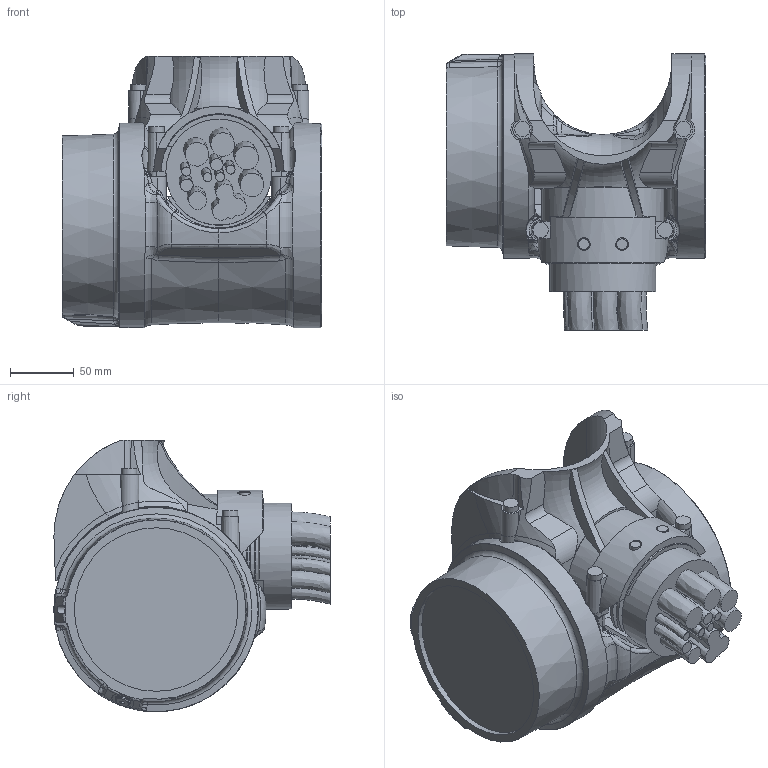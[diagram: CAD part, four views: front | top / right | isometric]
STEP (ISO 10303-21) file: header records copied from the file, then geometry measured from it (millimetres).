
FILE_DESCRIPTION (( 'STEP AP203' ), '1' );
FILE_NAME ('IRB6730S-LID_130kg-400_OC_01_LINK06_CABLE.step', '2025-12-19T13:19:45', ( '' ), ( '' ), 'SwSTEP 2.0', 'SolidWorks 2024', '' );
FILE_SCHEMA (( 'CONFIG_CONTROL_DESIGN' ));
Length unit declared in the file: millimetre
Products named in the file (1): IRB6730S-LID_130kg-400_OC_01_LINK06_CABLE
Bounding box: 203.3 x 216.17 x 212.48 mm (x, y, z)
Volume: 2778877.9 mm3; surface area: 286287.8 mm2
Topology: 1 solids, 1 shells, 617 faces, 1551 edges, 948 vertices
Faces by surface type: bspline 219, plane 150, cylinder 107, cone 66, torus 61, sphere 14
Full cylindrical faces by diameter (mm): 8.5 x15, 10 x3, 11.9 x1, 12 x5, 83 x1, 128 x1, 160 x2
Entity records: 29980 total; most frequent: CARTESIAN_POINT 17479, ORIENTED_EDGE 2936, DIRECTION 2037, EDGE_CURVE 1468, VERTEX_POINT 934, AXIS2_PLACEMENT_3D 885, EDGE_LOOP 716, B_SPLINE_CURVE_WITH_KNOTS 668
